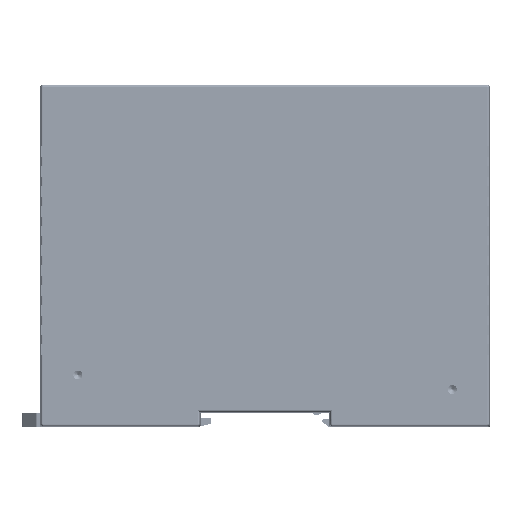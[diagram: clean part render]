
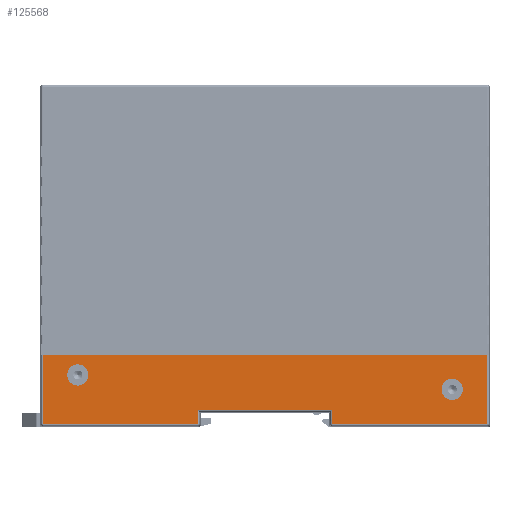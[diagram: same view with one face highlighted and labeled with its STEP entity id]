
A CAD part, front view. The second image highlights one B-rep face of the part: STEP entity #125568.
In plain terms, the highlighted planar face has unit normal (0, -1, 0).
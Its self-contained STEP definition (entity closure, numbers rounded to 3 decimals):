
#1002 = CARTESIAN_POINT ( 'NONE',  ( -18.666, 0., -42.734 ) ) ;
#1629 = ORIENTED_EDGE ( 'NONE', *, *, #237133, .T. ) ;
#2124 = EDGE_CURVE ( 'NONE', #115571, #58681, #94745, .T. ) ;
#4251 = ORIENTED_EDGE ( 'NONE', *, *, #12491, .T. ) ;
#4739 = DIRECTION ( 'NONE',  ( 0., 0., 1. ) ) ;
#6266 = LINE ( 'NONE', #59731, #95295 ) ;
#12491 = EDGE_CURVE ( 'NONE', #110400, #127992, #209024, .T. ) ;
#14199 = DIRECTION ( 'NONE',  ( 0., 0., -1. ) ) ;
#22651 = CARTESIAN_POINT ( 'NONE',  ( 0., 0., -42.734 ) ) ;
#34421 = CARTESIAN_POINT ( 'NONE',  ( 18.666, 0., -42.734 ) ) ;
#35209 = DIRECTION ( 'NONE',  ( 0., 0., 1. ) ) ;
#35264 = FACE_OUTER_BOUND ( 'NONE', #60804, .T. ) ;
#40265 = VECTOR ( 'NONE', #121641, 1000. ) ;
#42324 = DIRECTION ( 'NONE',  ( 0., 0., -1. ) ) ;
#43076 = LINE ( 'NONE', #234317, #117459 ) ;
#45692 = LINE ( 'NONE', #120183, #120086 ) ;
#55713 = CARTESIAN_POINT ( 'NONE',  ( -52., 0., -30.05 ) ) ;
#56358 = FACE_BOUND ( 'NONE', #65945, .T. ) ;
#58681 = VERTEX_POINT ( 'NONE', #81892 ) ;
#59731 = CARTESIAN_POINT ( 'NONE',  ( 18.666, 0., 0. ) ) ;
#60699 = VERTEX_POINT ( 'NONE', #125201 ) ;
#60804 = EDGE_LOOP ( 'NONE', ( #1629, #185624, #199033, #146064, #173285, #209163, #203316, #88076 ) ) ;
#65945 = EDGE_LOOP ( 'NONE', ( #88260, #90637 ) ) ;
#74969 = CIRCLE ( 'NONE', #213810, 2.95 ) ;
#75009 = DIRECTION ( 'NONE',  ( 0., -1., 0. ) ) ;
#75602 = EDGE_CURVE ( 'NONE', #172834, #222444, #242763, .T. ) ;
#76373 = CARTESIAN_POINT ( 'NONE',  ( -18.666, 0., -46.734 ) ) ;
#81892 = CARTESIAN_POINT ( 'NONE',  ( 52., 0., -39.95 ) ) ;
#85965 = AXIS2_PLACEMENT_3D ( 'NONE', #188180, #114879, #92582 ) ;
#88076 = ORIENTED_EDGE ( 'NONE', *, *, #142502, .T. ) ;
#88260 = ORIENTED_EDGE ( 'NONE', *, *, #151508, .T. ) ;
#90637 = ORIENTED_EDGE ( 'NONE', *, *, #2124, .T. ) ;
#92582 = DIRECTION ( 'NONE',  ( 0., 0., -1. ) ) ;
#94745 = CIRCLE ( 'NONE', #221704, 2.95 ) ;
#95295 = VECTOR ( 'NONE', #42324, 1000. ) ;
#96653 = VECTOR ( 'NONE', #143604, 1000. ) ;
#99081 = DIRECTION ( 'NONE',  ( 0., 0., -1. ) ) ;
#99781 = VECTOR ( 'NONE', #144600, 1000. ) ;
#103350 = DIRECTION ( 'NONE',  ( 0., 1., 0. ) ) ;
#105397 = DIRECTION ( 'NONE',  ( 0., 1., 0. ) ) ;
#107367 = EDGE_CURVE ( 'NONE', #191011, #202720, #127460, .T. ) ;
#110400 = VERTEX_POINT ( 'NONE', #55713 ) ;
#114879 = DIRECTION ( 'NONE',  ( 0., 1., 0. ) ) ;
#115571 = VERTEX_POINT ( 'NONE', #130921 ) ;
#116627 = EDGE_CURVE ( 'NONE', #60699, #172834, #166131, .T. ) ;
#117459 = VECTOR ( 'NONE', #158495, 1000. ) ;
#120086 = VECTOR ( 'NONE', #4739, 1000. ) ;
#120183 = CARTESIAN_POINT ( 'NONE',  ( -18.666, 0., 0. ) ) ;
#121641 = DIRECTION ( 'NONE',  ( 1., 0., 0. ) ) ;
#125201 = CARTESIAN_POINT ( 'NONE',  ( 61.734, 0., -27.5 ) ) ;
#125568 = ADVANCED_FACE ( 'NONE', ( #35264, #56358, #169362 ), #224116, .T. ) ;
#126418 = DIRECTION ( 'NONE',  ( -1., 0., 0. ) ) ;
#127460 = LINE ( 'NONE', #239301, #96653 ) ;
#127992 = VERTEX_POINT ( 'NONE', #140907 ) ;
#128362 = LINE ( 'NONE', #205393, #140469 ) ;
#130921 = CARTESIAN_POINT ( 'NONE',  ( 52., 0., -34.05 ) ) ;
#133792 = DIRECTION ( 'NONE',  ( 0., 0., -1. ) ) ;
#136160 = EDGE_CURVE ( 'NONE', #127992, #110400, #74969, .T. ) ;
#136296 = DIRECTION ( 'NONE',  ( 0., 1., 0. ) ) ;
#140017 = CIRCLE ( 'NONE', #227319, 2.95 ) ;
#140469 = VECTOR ( 'NONE', #35209, 1000. ) ;
#140907 = CARTESIAN_POINT ( 'NONE',  ( -52., 0., -35.95 ) ) ;
#142448 = AXIS2_PLACEMENT_3D ( 'NONE', #245211, #75009, #14199 ) ;
#142502 = EDGE_CURVE ( 'NONE', #166641, #232016, #45692, .T. ) ;
#143604 = DIRECTION ( 'NONE',  ( 1., 0., 0. ) ) ;
#144600 = DIRECTION ( 'NONE',  ( 0., 0., -1. ) ) ;
#146064 = ORIENTED_EDGE ( 'NONE', *, *, #146737, .T. ) ;
#146737 = EDGE_CURVE ( 'NONE', #202720, #60699, #128362, .T. ) ;
#151508 = EDGE_CURVE ( 'NONE', #58681, #115571, #140017, .T. ) ;
#158495 = DIRECTION ( 'NONE',  ( 1., 0., 0. ) ) ;
#161688 = DIRECTION ( 'NONE',  ( 0., 0., -1. ) ) ;
#162607 = EDGE_LOOP ( 'NONE', ( #239448, #4251 ) ) ;
#164662 = VECTOR ( 'NONE', #126418, 1000. ) ;
#166131 = LINE ( 'NONE', #187181, #164662 ) ;
#166641 = VERTEX_POINT ( 'NONE', #76373 ) ;
#169362 = FACE_BOUND ( 'NONE', #162607, .T. ) ;
#172834 = VERTEX_POINT ( 'NONE', #183353 ) ;
#173285 = ORIENTED_EDGE ( 'NONE', *, *, #116627, .T. ) ;
#175998 = VERTEX_POINT ( 'NONE', #34421 ) ;
#183353 = CARTESIAN_POINT ( 'NONE',  ( -61.734, 0., -27.5 ) ) ;
#185624 = ORIENTED_EDGE ( 'NONE', *, *, #219409, .T. ) ;
#186792 = CARTESIAN_POINT ( 'NONE',  ( -61.734, 0., 0. ) ) ;
#187181 = CARTESIAN_POINT ( 'NONE',  ( 0., 0., -27.5 ) ) ;
#188180 = CARTESIAN_POINT ( 'NONE',  ( -52., 0., -33. ) ) ;
#191011 = VERTEX_POINT ( 'NONE', #210172 ) ;
#192814 = LINE ( 'NONE', #22651, #40265 ) ;
#199033 = ORIENTED_EDGE ( 'NONE', *, *, #107367, .T. ) ;
#201450 = CARTESIAN_POINT ( 'NONE',  ( 52., 0., -37. ) ) ;
#202720 = VERTEX_POINT ( 'NONE', #203557 ) ;
#203316 = ORIENTED_EDGE ( 'NONE', *, *, #210844, .T. ) ;
#203557 = CARTESIAN_POINT ( 'NONE',  ( 61.734, 0., -46.734 ) ) ;
#205393 = CARTESIAN_POINT ( 'NONE',  ( 61.734, 0., 0. ) ) ;
#209024 = CIRCLE ( 'NONE', #85965, 2.95 ) ;
#209163 = ORIENTED_EDGE ( 'NONE', *, *, #75602, .T. ) ;
#210172 = CARTESIAN_POINT ( 'NONE',  ( 18.666, 0., -46.734 ) ) ;
#210844 = EDGE_CURVE ( 'NONE', #222444, #166641, #43076, .T. ) ;
#213810 = AXIS2_PLACEMENT_3D ( 'NONE', #230737, #136296, #99081 ) ;
#219409 = EDGE_CURVE ( 'NONE', #175998, #191011, #6266, .T. ) ;
#219680 = CARTESIAN_POINT ( 'NONE',  ( 52., 0., -37. ) ) ;
#221704 = AXIS2_PLACEMENT_3D ( 'NONE', #219680, #105397, #133792 ) ;
#222444 = VERTEX_POINT ( 'NONE', #243583 ) ;
#224116 = PLANE ( 'NONE',  #142448 ) ;
#227319 = AXIS2_PLACEMENT_3D ( 'NONE', #201450, #103350, #161688 ) ;
#230737 = CARTESIAN_POINT ( 'NONE',  ( -52., 0., -33. ) ) ;
#232016 = VERTEX_POINT ( 'NONE', #1002 ) ;
#234317 = CARTESIAN_POINT ( 'NONE',  ( 0., 0., -46.734 ) ) ;
#237133 = EDGE_CURVE ( 'NONE', #232016, #175998, #192814, .T. ) ;
#239301 = CARTESIAN_POINT ( 'NONE',  ( 0., 0., -46.734 ) ) ;
#239448 = ORIENTED_EDGE ( 'NONE', *, *, #136160, .T. ) ;
#242763 = LINE ( 'NONE', #186792, #99781 ) ;
#243583 = CARTESIAN_POINT ( 'NONE',  ( -61.734, 0., -46.734 ) ) ;
#245211 = CARTESIAN_POINT ( 'NONE',  ( 0., 0., 0. ) ) ;
